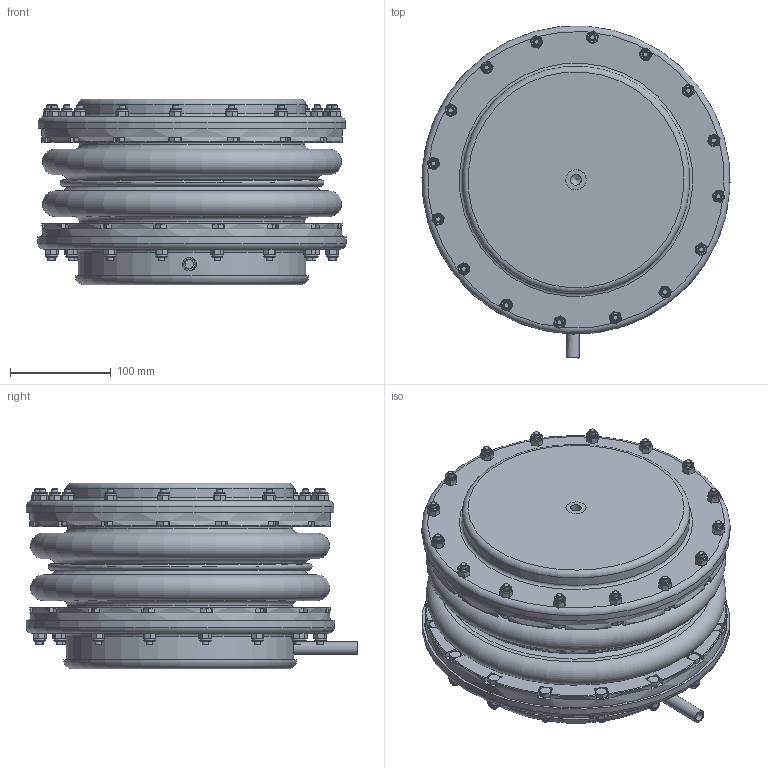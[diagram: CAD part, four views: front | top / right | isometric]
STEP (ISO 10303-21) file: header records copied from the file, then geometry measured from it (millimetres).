
FILE_DESCRIPTION((''),'2;1');
FILE_NAME('C:\2012_Work\Designs\MT MOUNTS\MT-8\MT-8 ASSEMBLY.stp','2013-11-05T14:23:33',('KShiels'),(''),'Autodesk Inventor 2012','Autodesk Inventor 2012','');
FILE_SCHEMA(('AUTOMOTIVE_DESIGN { 1 0 10303 214 1 1 1 1 }'));
Length unit declared in the file: inch
Products named in the file (10): MT-8 ASSEMBLY; MT-8 FRICTION PAD; MT-8 BOTTOM HOUSING; MT-8 TOP HOUSING; MT-8 TAPED ROUND STOCK; MT-8 RUBBER BELLOWS; MT-8 INNER CASTING; MT-8 NIPPLE; 0; Hex Bolt - Inch 1/4-20 UNC - 1.25
Assembly tree (72 placements, depth 2):
  MT-8 ASSEMBLY
    MT-8 FRICTION PAD
    MT-8 BOTTOM HOUSING
    MT-8 TOP HOUSING
    MT-8 TAPED ROUND STOCK
    MT-8 RUBBER BELLOWS
    MT-8 INNER CASTING  x2
    MT-8 NIPPLE
    0  x32
    Hex Bolt - Inch 1/4-20 UNC - 1.25  x32
Bounding box: 305.15 x 328.76 x 184.16 mm (x, y, z)
Volume: 2822616.5 mm3; surface area: 1298198.3 mm2
Topology: 84 solids, 95 shells, 2450 faces, 5967 edges, 3709 vertices
Faces by surface type: plane 1688, cylinder 291, cone 267, torus 204
Full cylindrical faces by diameter (mm): 6.35 x64, 6.604 x32, 6.747 x32, 7 x32, 7.144 x32, 9.6 x1, 10.592 x1, 11.113 x32, 11.125 x32, 12.6 x1, 13 x1, 20 x2, 25.4 x1, 34 x1, 40 x1, 82 x1, 88 x1, 136 x1, 142 x1, 178 x1, 184 x1, 220 x2, 220.663 x2, 222.25 x2, 223.838 x2, 225.2 x2, 269.875 x2, 273.05 x2, 298.45 x2, 300 x2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
Entity records: 11296 total; most frequent: CARTESIAN_POINT 2138, DIRECTION 1954, ORIENTED_EDGE 1352, AXIS2_PLACEMENT_3D 867, EDGE_LOOP 730, EDGE_CURVE 676, VERTEX_POINT 516, FACE_OUTER_BOUND 388
